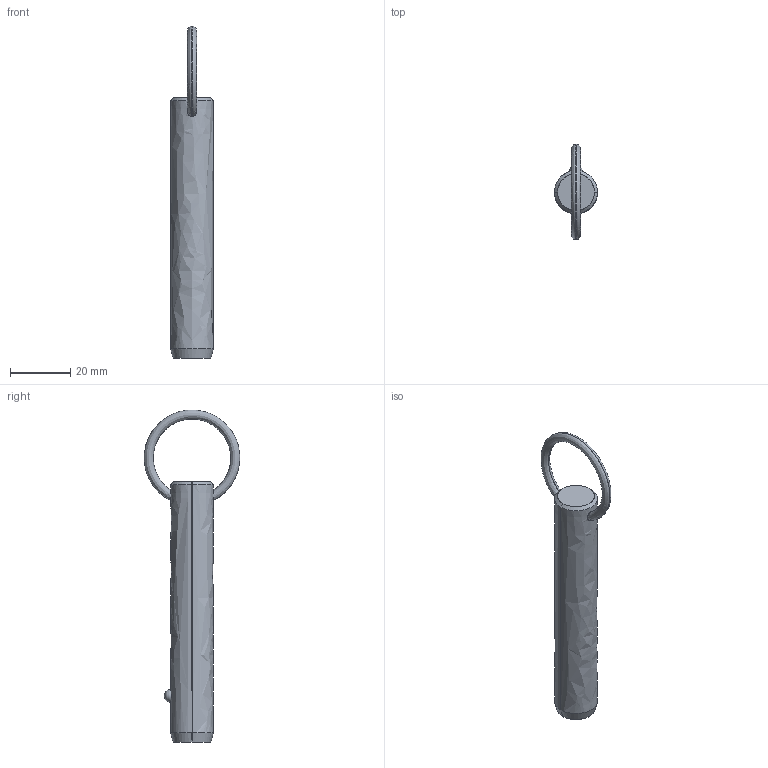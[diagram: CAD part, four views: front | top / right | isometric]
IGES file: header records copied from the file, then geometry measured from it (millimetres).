
Start section: SolidWorks IGES file using analytic representation for surfaces
Global section: file name: C:\Users\liam_\OneDrive\Documents\WORK\Work for WixRoyd\Job Files\J-00019 - Matt Davis CAD Checking\04. CAD Drawings\automotion20190605\P1250.2_v2\P1250.2_v2_20190729_IGES\P1250.056-240.igs; native system: SolidWorks 2017; preprocessor: SolidWorks 2017; author: liam_; date: 190729.231816; units: millimetre
Bounding box: 14.2 x 31.68 x 110.09 mm (x, y, z)
Surface area: 4815.8 mm2 (no closed solid volume)
Topology: 0 solids, 0 shells, 12 faces, 285 edges, 283 vertices
Faces by surface type: revolution 8, bspline 4
